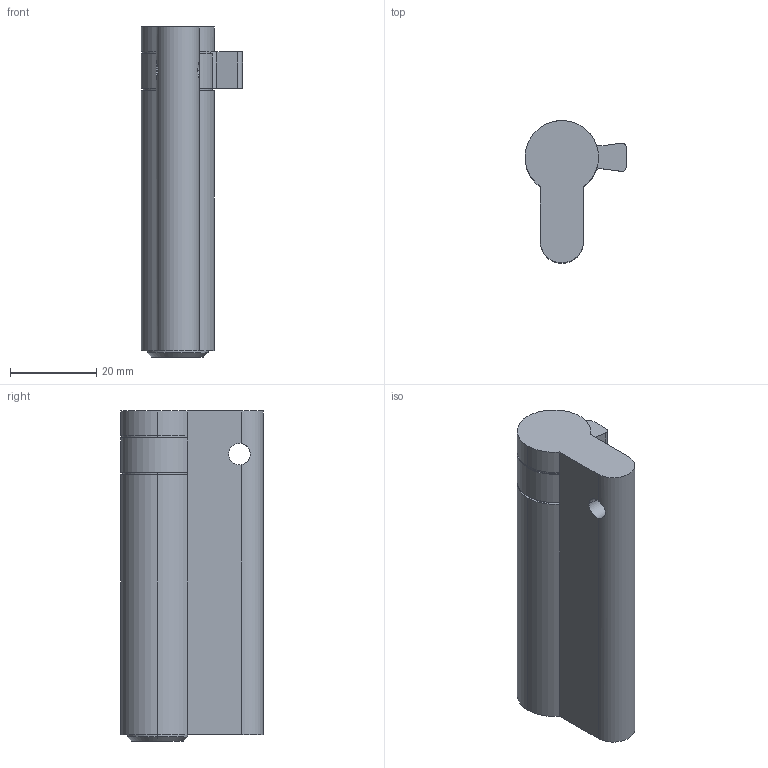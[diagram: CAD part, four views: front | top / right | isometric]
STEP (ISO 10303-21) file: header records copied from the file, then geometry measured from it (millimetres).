
FILE_DESCRIPTION (( 'STEP AP214' ), '1' );
FILE_NAME ('TPL-H-EU-513-L 29Oct2024.STEP', '2024-10-29T22:19:09', ( '' ), ( '' ), 'SwSTEP 2.0', 'SolidWorks 2023', '' );
FILE_SCHEMA (( 'AUTOMOTIVE_DESIGN' ));
Length unit declared in the file: millimetre
Products named in the file (1): TPL-H-EU-513-L 29Oct2024
Bounding box: 23.58 x 33 x 76.5 mm (x, y, z)
Volume: 28616.1 mm3; surface area: 7904.7 mm2
Topology: 1 solids, 1 shells, 45 faces, 124 edges, 78 vertices
Faces by surface type: cylinder 26, plane 16, cone 3
Entity records: 1540 total; most frequent: CARTESIAN_POINT 318, DIRECTION 271, ORIENTED_EDGE 248, EDGE_CURVE 124, AXIS2_PLACEMENT_3D 107, VERTEX_POINT 78, CIRCLE 61, VECTOR 57
